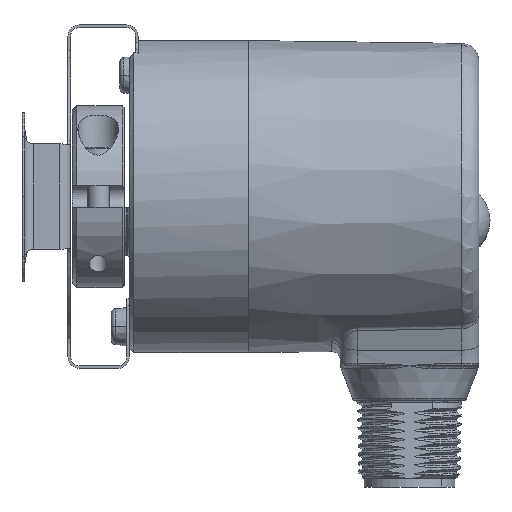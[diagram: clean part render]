
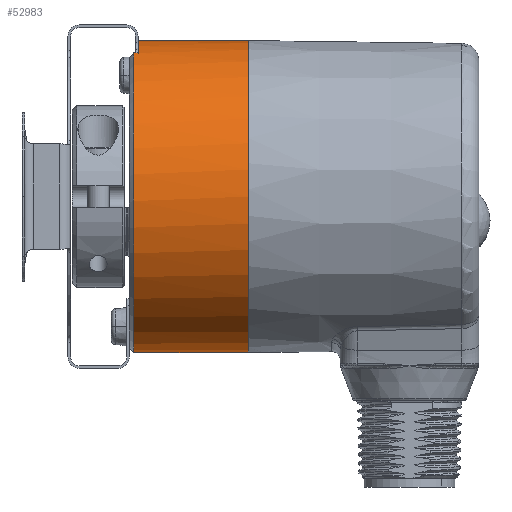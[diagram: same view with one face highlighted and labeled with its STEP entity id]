
A CAD part, front view. The second image highlights one B-rep face of the part: STEP entity #52983.
In plain terms, the highlighted cylindrical face has radius 18 mm (diameter 36 mm), a partial arc.
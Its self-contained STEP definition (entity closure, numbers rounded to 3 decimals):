
#8028 = EDGE_CURVE ( 'NONE', #8035, #52663, #15192, .T. ) ;
#8035 = VERTEX_POINT ( 'NONE', #15227 ) ;
#12655 = CARTESIAN_POINT ( 'NONE',  ( 0.5, 0., -18. ) ) ;
#13070 = CARTESIAN_POINT ( 'NONE',  ( 1., 0., 18. ) ) ;
#13071 = DIRECTION ( 'NONE',  ( -1., 0., 0. ) ) ;
#13072 = VECTOR ( 'NONE', #13071, 1000. ) ;
#13073 = CARTESIAN_POINT ( 'NONE',  ( -1.958, 0., 18. ) ) ;
#13074 = LINE ( 'NONE', #13073, #13072 ) ;
#13592 = FACE_OUTER_BOUND ( 'NONE', #52984, .T. ) ;
#13593 = DIRECTION ( 'NONE',  ( 0., 0., 1. ) ) ;
#13594 = DIRECTION ( 'NONE',  ( -1., 0., 0. ) ) ;
#13595 = CARTESIAN_POINT ( 'NONE',  ( 13.7, 0., 0. ) ) ;
#13596 = AXIS2_PLACEMENT_3D ( 'NONE', #13595, #13594, #13593 ) ;
#13597 = CIRCLE ( 'NONE', #13596, 18. ) ;
#13603 = CARTESIAN_POINT ( 'NONE',  ( 1., -7., 16.583 ) ) ;
#13628 = DIRECTION ( 'NONE',  ( 0., 0., 1. ) ) ;
#13629 = DIRECTION ( 'NONE',  ( -1., 0., 0. ) ) ;
#13630 = AXIS2_PLACEMENT_3D ( 'NONE', #13634, #13629, #13628 ) ;
#13631 = CYLINDRICAL_SURFACE ( 'NONE', #13630, 18. ) ;
#13634 = CARTESIAN_POINT ( 'NONE',  ( -1.958, 0., 0. ) ) ;
#13661 = DIRECTION ( 'NONE',  ( -1., 0., 0. ) ) ;
#13662 = VECTOR ( 'NONE', #13661, 1000. ) ;
#13663 = CARTESIAN_POINT ( 'NONE',  ( -1.958, -7., 16.583 ) ) ;
#13664 = LINE ( 'NONE', #13663, #13662 ) ;
#13675 = DIRECTION ( 'NONE',  ( 0., 0., 1. ) ) ;
#13676 = DIRECTION ( 'NONE',  ( -1., 0., 0. ) ) ;
#13677 = AXIS2_PLACEMENT_3D ( 'NONE', #13683, #13676, #13675 ) ;
#13678 = CIRCLE ( 'NONE', #13677, 18. ) ;
#13683 = CARTESIAN_POINT ( 'NONE',  ( 1., 0., 0. ) ) ;
#14417 = CARTESIAN_POINT ( 'NONE',  ( 13.7, 0., -18. ) ) ;
#14418 = CARTESIAN_POINT ( 'NONE',  ( 13.7, 0., 18. ) ) ;
#14420 = DIRECTION ( 'NONE',  ( -1., 0., 0. ) ) ;
#14421 = VECTOR ( 'NONE', #14420, 1000. ) ;
#14422 = CARTESIAN_POINT ( 'NONE',  ( -1.958, 0., -18. ) ) ;
#14423 = LINE ( 'NONE', #14422, #14421 ) ;
#15188 = DIRECTION ( 'NONE',  ( 0., 0., -1. ) ) ;
#15189 = DIRECTION ( 'NONE',  ( 1., 0., 0. ) ) ;
#15190 = CARTESIAN_POINT ( 'NONE',  ( 0.5, 0., 0. ) ) ;
#15191 = AXIS2_PLACEMENT_3D ( 'NONE', #15190, #15189, #15188 ) ;
#15192 = CIRCLE ( 'NONE', #15191, 18. ) ;
#15227 = CARTESIAN_POINT ( 'NONE',  ( 0.5, -7., 16.583 ) ) ;
#52663 = VERTEX_POINT ( 'NONE', #12655 ) ;
#52807 = EDGE_CURVE ( 'NONE', #53307, #52808, #13074, .T. ) ;
#52808 = VERTEX_POINT ( 'NONE', #13070 ) ;
#52969 = ORIENTED_EDGE ( 'NONE', *, *, #52807, .T. ) ;
#52977 = VERTEX_POINT ( 'NONE', #13603 ) ;
#52980 = ORIENTED_EDGE ( 'NONE', *, *, #52981, .T. ) ;
#52981 = EDGE_CURVE ( 'NONE', #53308, #53307, #13597, .T. ) ;
#52982 = ORIENTED_EDGE ( 'NONE', *, *, #53305, .F. ) ;
#52983 = ADVANCED_FACE ( 'NONE', ( #13592 ), #13631, .T. ) ;
#52984 = EDGE_LOOP ( 'NONE', ( #52982, #52980, #52969, #53017, #53016, #52986 ) ) ;
#52986 = ORIENTED_EDGE ( 'NONE', *, *, #8028, .T. ) ;
#52987 = EDGE_CURVE ( 'NONE', #52977, #8035, #13664, .T. ) ;
#53005 = EDGE_CURVE ( 'NONE', #52977, #52808, #13678, .T. ) ;
#53016 = ORIENTED_EDGE ( 'NONE', *, *, #52987, .T. ) ;
#53017 = ORIENTED_EDGE ( 'NONE', *, *, #53005, .F. ) ;
#53305 = EDGE_CURVE ( 'NONE', #53308, #52663, #14423, .T. ) ;
#53307 = VERTEX_POINT ( 'NONE', #14418 ) ;
#53308 = VERTEX_POINT ( 'NONE', #14417 ) ;
